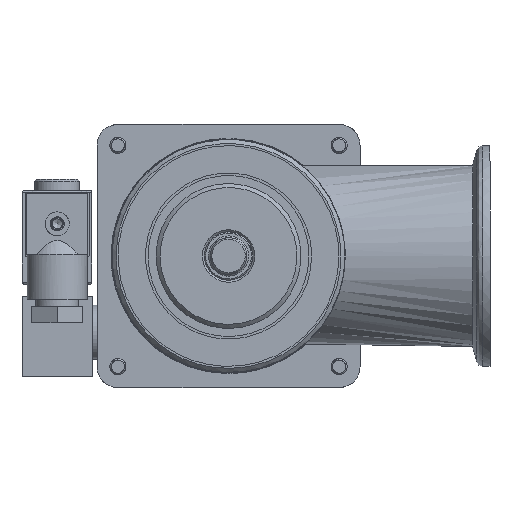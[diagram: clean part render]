
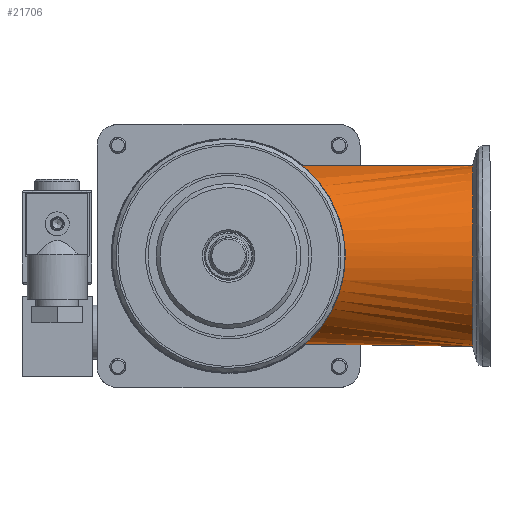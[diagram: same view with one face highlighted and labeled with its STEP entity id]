
A CAD part, front view. The second image highlights one B-rep face of the part: STEP entity #21706.
In plain terms, the highlighted free-form (B-spline) face has degree [2, 1] with [7, 2] control points.
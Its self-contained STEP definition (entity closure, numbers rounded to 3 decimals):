
#21599=CARTESIAN_POINT('V3',(4.326,22.5,
   0.0));
#21600=VERTEX_POINT('V3',#21599);
#21606=CARTESIAN_POINT('E5',(4.326,22.5,
   0.0));
#21607=CARTESIAN_POINT('E5',(4.326,22.5,
   38.971));
#21608=CARTESIAN_POINT('E5',(4.326,-11.25,
   19.486));
#21609=CARTESIAN_POINT('E5',(4.326,-45.,
   0.));
#21610=CARTESIAN_POINT('E5',(4.326,-11.25,
   -19.486));
#21611=CARTESIAN_POINT('E5',(4.326,22.5,
   -38.971));
#21612=CARTESIAN_POINT('E5',(4.326,22.5,
   0.0));
#21620=(BOUNDED_CURVE()B_SPLINE_CURVE(2,(#21606,#21607,#21608,
   #21609,#21610,#21611,#21612),.CIRCULAR_ARC.,.T.,.U.)
   B_SPLINE_CURVE_WITH_KNOTS((3,2,2,3),(0.0,1.785,
   3.569,5.354),.UNSPECIFIED.)CURVE()
   GEOMETRIC_REPRESENTATION_ITEM()RATIONAL_B_SPLINE_CURVE((1.0,
   0.5,1.0,0.5,1.0,0.5,1.0)
   )REPRESENTATION_ITEM('E5'));
#21621=EDGE_CURVE('E5',#21600,#21600,#21620,.T.);
#21628=CARTESIAN_POINT('F7',(4.326,22.5,
   0.0));
#21629=CARTESIAN_POINT('F7',(4.326,22.5,
   38.971));
#21630=CARTESIAN_POINT('F7',(4.326,-11.25,
   19.486));
#21631=CARTESIAN_POINT('F7',(4.326,-45.,
   0.));
#21632=CARTESIAN_POINT('F7',(4.326,-11.25,
   -19.486));
#21633=CARTESIAN_POINT('F7',(4.326,22.5,
   -38.971));
#21634=CARTESIAN_POINT('F7',(4.326,22.5,
   0.0));
#21635=CARTESIAN_POINT('F7',(48.,22.5,
   0.0));
#21636=CARTESIAN_POINT('F7',(48.,22.5,
   38.971));
#21637=CARTESIAN_POINT('F7',(48.,-11.25,
   19.486));
#21638=CARTESIAN_POINT('F7',(48.,-45.,
   0.));
#21639=CARTESIAN_POINT('F7',(48.,-11.25,
   -19.486));
#21640=CARTESIAN_POINT('F7',(48.,22.5,
   -38.971));
#21641=CARTESIAN_POINT('F7',(48.,22.5,
   0.0));
#21649=(BOUNDED_SURFACE()B_SPLINE_SURFACE(2,1,((#21628,#21635),(
   #21629,#21636),(#21630,#21637),(#21631,#21638),(#21632,
   #21639),(#21633,#21640),(#21634,#21641)),.CYLINDRICAL_SURF.,
   .T.,.F.,.U.)B_SPLINE_SURFACE_WITH_KNOTS((3,2,2,3),(2,2),(0.0,
   1.785,3.569,5.354),(0.0,1.0),
   .UNSPECIFIED.)GEOMETRIC_REPRESENTATION_ITEM()
   RATIONAL_B_SPLINE_SURFACE(((1.0,1.0),(0.5,
   0.5),(1.0,1.0),(0.5,
   0.5),(1.0,1.0),(0.5,
   0.5),(1.0,1.0)))REPRESENTATION_ITEM('F7')SURFACE()
   );
#21650=CARTESIAN_POINT('V8',(36.,22.5,
   0.0));
#21651=VERTEX_POINT('V8',#21650);
#21652=CARTESIAN_POINT('E12',(36.,22.5,
   0.0));
#21653=CARTESIAN_POINT('E12',(36.,22.5,
   -1.358));
#21654=CARTESIAN_POINT('E12',(36.096,22.377,
   -2.705));
#21655=CARTESIAN_POINT('E12',(36.726,21.559,
   -7.203));
#21656=CARTESIAN_POINT('E12',(37.643,20.362,
   -9.921));
#21657=CARTESIAN_POINT('E12',(39.999,17.088,
   -15.045));
#21658=CARTESIAN_POINT('E12',(41.626,14.696,
   -17.298));
#21659=CARTESIAN_POINT('E12',(44.454,9.594,
   -20.584));
#21660=CARTESIAN_POINT('E12',(45.771,6.657,
   -21.722));
#21661=CARTESIAN_POINT('E12',(46.507,2.793,
   -22.339));
#21662=CARTESIAN_POINT('E12',(46.608,2.027,
   -22.422));
#21663=CARTESIAN_POINT('E12',(46.713,0.494,
   -22.507));
#21664=CARTESIAN_POINT('E12',(46.718,-0.262,
   -22.511));
#21665=CARTESIAN_POINT('E12',(46.595,-2.461,
   -22.411));
#21666=CARTESIAN_POINT('E12',(46.347,-3.859,
   -22.21));
#21667=CARTESIAN_POINT('E12',(45.608,-6.553,
   -21.569));
#21668=CARTESIAN_POINT('E12',(45.124,-7.843,
   -21.132));
#21669=CARTESIAN_POINT('E12',(43.257,-12.045,
   -19.28));
#21670=CARTESIAN_POINT('E12',(41.451,-14.925,
   -17.238));
#21671=CARTESIAN_POINT('E12',(38.449,-19.296,
   -11.99));
#21672=CARTESIAN_POINT('E12',(37.103,-21.066,
   -8.829));
#21673=CARTESIAN_POINT('E12',(36.054,-22.432,
   -2.826));
#21674=CARTESIAN_POINT('E12',(35.919,-22.604,
   -0.591));
#21675=CARTESIAN_POINT('E12',(36.146,-22.312,
   3.387));
#21676=CARTESIAN_POINT('E12',(36.399,-21.985,
   5.078));
#21677=CARTESIAN_POINT('E12',(37.458,-20.595,
   9.536));
#21678=CARTESIAN_POINT('E12',(38.482,-19.227,
   11.951));
#21679=CARTESIAN_POINT('E12',(41.265,-15.223,
   17.038));
#21680=CARTESIAN_POINT('E12',(43.22,-12.152,
   19.248));
#21681=CARTESIAN_POINT('E12',(45.614,-6.723,
   21.614));
#21682=CARTESIAN_POINT('E12',(46.48,-4.084,
   22.317));
#21683=CARTESIAN_POINT('E12',(46.759,0.274,
   22.545));
#21684=CARTESIAN_POINT('E12',(46.678,1.703,
   22.481));
#21685=CARTESIAN_POINT('E12',(45.974,5.887,
   21.895));
#21686=CARTESIAN_POINT('E12',(44.933,8.481,
   21.007));
#21687=CARTESIAN_POINT('E12',(42.381,13.502,
   18.26));
#21688=CARTESIAN_POINT('E12',(40.673,16.101,
   16.113));
#21689=CARTESIAN_POINT('E12',(38.111,19.735,
   11.121));
#21690=CARTESIAN_POINT('E12',(37.094,21.077,
   8.492));
#21691=CARTESIAN_POINT('E12',(36.175,22.276,
   3.648));
#21692=CARTESIAN_POINT('E12',(36.,22.5,
   1.836));
#21693=CARTESIAN_POINT('E12',(36.,22.5,
   0.0));
#21694=B_SPLINE_CURVE_WITH_KNOTS('E12',3,(#21652,#21653,#21654,
   #21655,#21656,#21657,#21658,#21659,#21660,#21661,#21662,#21663,
   #21664,#21665,#21666,#21667,#21668,#21669,#21670,#21671,#21672,
   #21673,#21674,#21675,#21676,#21677,#21678,#21679,#21680,#21681,
   #21682,#21683,#21684,#21685,#21686,#21687,#21688,#21689,#21690,
   #21691,#21692,#21693),.UNSPECIFIED.,.T.,.U.,(4,2,2,2,2,2,2,2,2,2,
   2,2,2,2,2,2,2,2,2,2,4),(0.0,0.023,0.08,
   0.155,0.232,0.251,
   0.269,0.304,0.338,
   0.421,0.492,0.531,
   0.562,0.616,0.701,
   0.762,0.792,0.851,
   0.92,0.971,1.0),.UNSPECIFIED.);
#21695=EDGE_CURVE('E12',#21651,#21651,#21694,.T.);
#21696=ORIENTED_EDGE('E12',*,*,#21695,.F.);
#21697=CARTESIAN_POINT('E13',(36.,22.5,
   0.0));
#21698=CARTESIAN_POINT('E13',(4.326,22.5,
   0.0));
#21699=B_SPLINE_CURVE_WITH_KNOTS('E13',1,(#21697,#21698),
   .POLYLINE_FORM.,.F.,.U.,(2,2),(0.275,1.0),
   .UNSPECIFIED.);
#21700=EDGE_CURVE('E13',#21651,#21600,#21699,.T.);
#21701=ORIENTED_EDGE('E13',*,*,#21700,.T.);
#21702=ORIENTED_EDGE('E5',*,*,#21621,.F.);
#21703=ORIENTED_EDGE('E13',*,*,#21700,.F.);
#21704=EDGE_LOOP('F7',(#21696,#21701,#21702,#21703));
#21705=FACE_OUTER_BOUND('F7',#21704,.F.);
#21706=ADVANCED_FACE('F7',(#21705),#21649,.T.);
